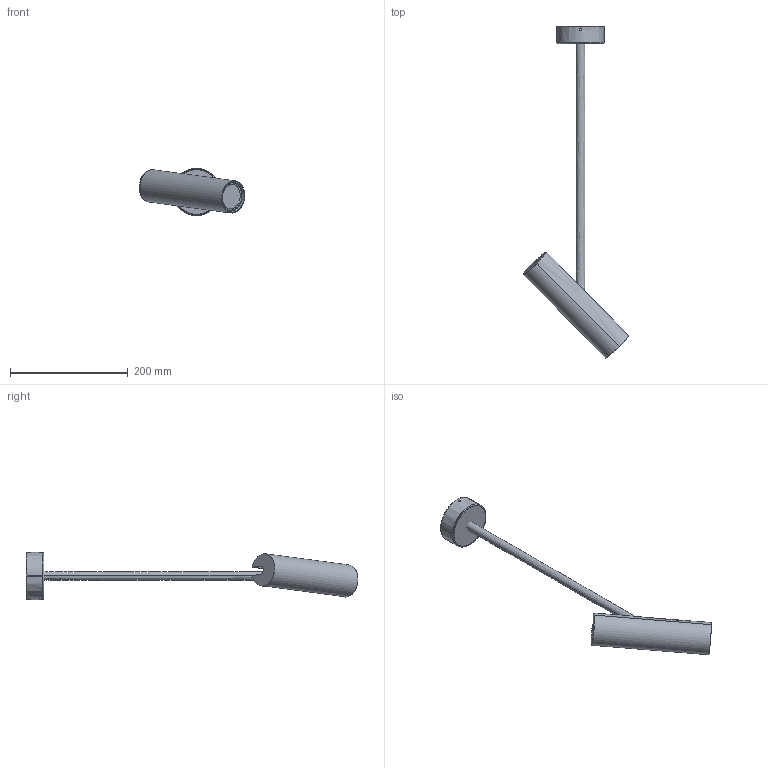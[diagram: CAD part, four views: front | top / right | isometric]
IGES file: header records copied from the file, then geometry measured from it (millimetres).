
Start section: SolidWorks IGES file using analytic representation for surfaces
Global section: file name: Z:\Modele 3D_WWW\_KOLEKCJE_WWW\EYE-SUPER\EYE-SUPER-A-6488-6495-6502\EYE-SUPER-A-6488-6495-6502.IGS; native system: SolidWorks 2020; preprocessor: SolidWorks 2020; author: gabriela.tworek; date: 210324.125356; units: millimetre
Bounding box: 179.18 x 564.27 x 80 mm (x, y, z)
Surface area: 126507.6 mm2 (no closed solid volume)
Topology: 0 solids, 0 shells, 49 faces, 1429 edges, 1429 vertices
Faces by surface type: bspline 27, revolution 22
